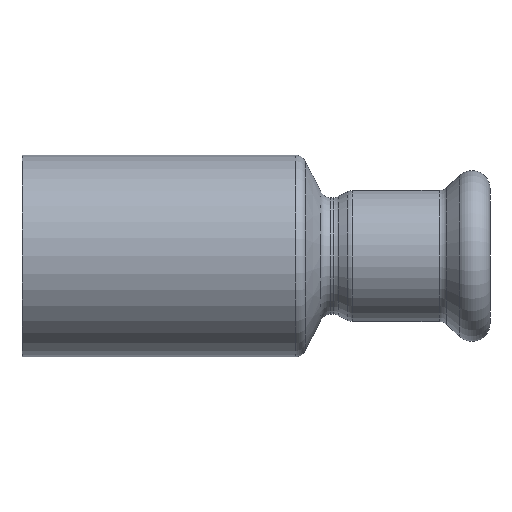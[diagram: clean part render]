
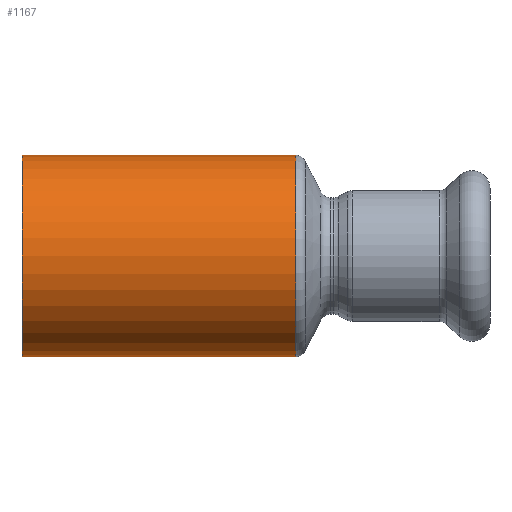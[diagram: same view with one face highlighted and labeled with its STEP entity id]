
A CAD part, front view. The second image highlights one B-rep face of the part: STEP entity #1167.
In plain terms, the highlighted cylindrical face has radius 14 mm (diameter 28 mm), a partial arc.
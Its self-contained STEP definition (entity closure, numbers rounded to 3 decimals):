
#6 = DIRECTION ( 'NONE',  ( 0., 0., 1. ) ) ;
#7 = AXIS2_PLACEMENT_3D ( 'NONE', #722, #220, #6 ) ;
#18 = CARTESIAN_POINT ( 'NONE',  ( -53.513, 0., 14. ) ) ;
#41 = ORIENTED_EDGE ( 'NONE', *, *, #301, .F. ) ;
#61 = CIRCLE ( 'NONE', #1232, 14. ) ;
#126 = VECTOR ( 'NONE', #420, 1000. ) ;
#176 = DIRECTION ( 'NONE',  ( -1., 0., 0. ) ) ;
#198 = DIRECTION ( 'NONE',  ( 0., 0., -1. ) ) ;
#214 = CYLINDRICAL_SURFACE ( 'NONE', #7, 14. ) ;
#220 = DIRECTION ( 'NONE',  ( -1., 0., 0. ) ) ;
#261 = VERTEX_POINT ( 'NONE', #1024 ) ;
#262 = CARTESIAN_POINT ( 'NONE',  ( 17.512, 0., -14. ) ) ;
#277 = CARTESIAN_POINT ( 'NONE',  ( -20.488, 0., -14. ) ) ;
#301 = EDGE_CURVE ( 'NONE', #990, #1141, #1240, .T. ) ;
#377 = CARTESIAN_POINT ( 'NONE',  ( -53.513, 0., -14. ) ) ;
#420 = DIRECTION ( 'NONE',  ( -1., 0., 0. ) ) ;
#429 = LINE ( 'NONE', #18, #126 ) ;
#454 = EDGE_CURVE ( 'NONE', #990, #678, #805, .T. ) ;
#511 = DIRECTION ( 'NONE',  ( -1., 0., 0. ) ) ;
#546 = CARTESIAN_POINT ( 'NONE',  ( 17.512, 0., 14. ) ) ;
#599 = EDGE_LOOP ( 'NONE', ( #41, #1231, #902, #1168 ) ) ;
#678 = VERTEX_POINT ( 'NONE', #546 ) ;
#700 = VECTOR ( 'NONE', #176, 1000. ) ;
#722 = CARTESIAN_POINT ( 'NONE',  ( -53.513, 0., 0. ) ) ;
#805 = CIRCLE ( 'NONE', #942, 14. ) ;
#820 = FACE_OUTER_BOUND ( 'NONE', #599, .T. ) ;
#878 = DIRECTION ( 'NONE',  ( -1., 0., 0. ) ) ;
#902 = ORIENTED_EDGE ( 'NONE', *, *, #1215, .T. ) ;
#903 = DIRECTION ( 'NONE',  ( 0., 0., 1. ) ) ;
#942 = AXIS2_PLACEMENT_3D ( 'NONE', #1088, #878, #198 ) ;
#990 = VERTEX_POINT ( 'NONE', #262 ) ;
#1024 = CARTESIAN_POINT ( 'NONE',  ( -20.488, 0., 14. ) ) ;
#1088 = CARTESIAN_POINT ( 'NONE',  ( 17.512, 0., 0. ) ) ;
#1141 = VERTEX_POINT ( 'NONE', #277 ) ;
#1167 = ADVANCED_FACE ( 'NONE', ( #820 ), #214, .T. ) ;
#1168 = ORIENTED_EDGE ( 'NONE', *, *, #1205, .F. ) ;
#1183 = CARTESIAN_POINT ( 'NONE',  ( -20.488, 0., 0. ) ) ;
#1205 = EDGE_CURVE ( 'NONE', #1141, #261, #61, .T. ) ;
#1215 = EDGE_CURVE ( 'NONE', #678, #261, #429, .T. ) ;
#1231 = ORIENTED_EDGE ( 'NONE', *, *, #454, .T. ) ;
#1232 = AXIS2_PLACEMENT_3D ( 'NONE', #1183, #511, #903 ) ;
#1240 = LINE ( 'NONE', #377, #700 ) ;
